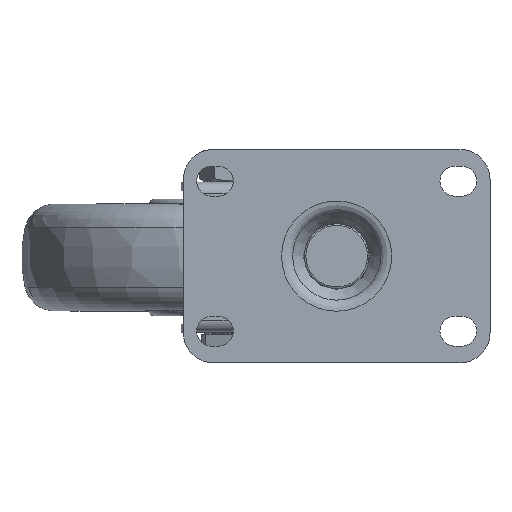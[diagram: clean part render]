
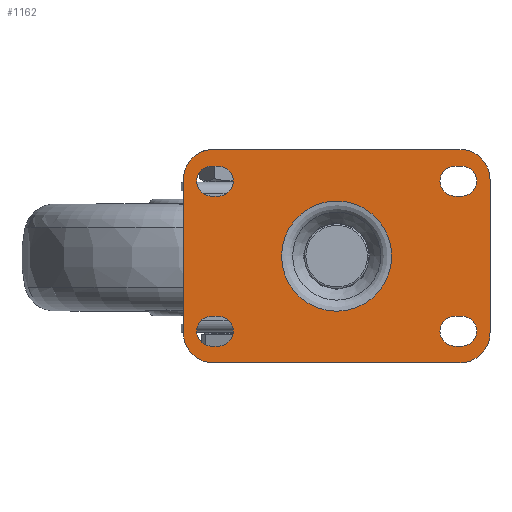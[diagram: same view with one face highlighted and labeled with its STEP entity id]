
A CAD part, top view. The second image highlights one B-rep face of the part: STEP entity #1162.
In plain terms, the highlighted planar face has unit normal (0, 0, 1).
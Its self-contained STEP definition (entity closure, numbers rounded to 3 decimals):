
#1162=ADVANCED_FACE('',(#2479,#2480,#2481,#2482,#2483,#2484),#2006,.F.);
#2006=PLANE('',#14996);
#2479=FACE_BOUND('',#2766,.T.);
#2480=FACE_BOUND('',#2767,.T.);
#2481=FACE_BOUND('',#2768,.T.);
#2482=FACE_BOUND('',#2769,.T.);
#2483=FACE_BOUND('',#2770,.T.);
#2484=FACE_BOUND('',#2771,.T.);
#2766=EDGE_LOOP('',(#6605));
#2767=EDGE_LOOP('',(#6606,#6607,#6608,#6609));
#2768=EDGE_LOOP('',(#6610,#6611,#6612,#6613));
#2769=EDGE_LOOP('',(#6614,#6615,#6616,#6617));
#2770=EDGE_LOOP('',(#6618,#6619,#6620,#6621));
#2771=EDGE_LOOP('',(#6622,#6623,#6624,#6625,#6626,#6627,#6628,#6629,#6630,
#6631));
#4642=LINE('',#20345,#5521);
#4643=LINE('',#20350,#5522);
#4644=LINE('',#20353,#5523);
#4645=LINE('',#20358,#5524);
#4646=LINE('',#20361,#5525);
#4647=LINE('',#20366,#5526);
#4648=LINE('',#20369,#5527);
#4649=LINE('',#20374,#5528);
#4650=LINE('',#20377,#5529);
#4651=LINE('',#20380,#5530);
#4652=LINE('',#20384,#5531);
#4653=LINE('',#20388,#5532);
#4654=LINE('',#20390,#5533);
#4655=LINE('',#20394,#5534);
#5521=VECTOR('',#16355,1.);
#5522=VECTOR('',#16358,1.);
#5523=VECTOR('',#16361,1.);
#5524=VECTOR('',#16364,1.);
#5525=VECTOR('',#16367,1.);
#5526=VECTOR('',#16370,1.);
#5527=VECTOR('',#16373,1.);
#5528=VECTOR('',#16376,1.);
#5529=VECTOR('',#16379,1.);
#5530=VECTOR('',#16380,1.);
#5531=VECTOR('',#16383,1.);
#5532=VECTOR('',#16386,1.);
#5533=VECTOR('',#16387,1.);
#5534=VECTOR('',#16390,1.);
#6605=ORIENTED_EDGE('',*,*,#12462,.T.);
#6606=ORIENTED_EDGE('',*,*,#12463,.F.);
#6607=ORIENTED_EDGE('',*,*,#12464,.F.);
#6608=ORIENTED_EDGE('',*,*,#12465,.F.);
#6609=ORIENTED_EDGE('',*,*,#12466,.F.);
#6610=ORIENTED_EDGE('',*,*,#12467,.F.);
#6611=ORIENTED_EDGE('',*,*,#12468,.F.);
#6612=ORIENTED_EDGE('',*,*,#12469,.F.);
#6613=ORIENTED_EDGE('',*,*,#12470,.F.);
#6614=ORIENTED_EDGE('',*,*,#12471,.F.);
#6615=ORIENTED_EDGE('',*,*,#12472,.F.);
#6616=ORIENTED_EDGE('',*,*,#12473,.F.);
#6617=ORIENTED_EDGE('',*,*,#12474,.F.);
#6618=ORIENTED_EDGE('',*,*,#12475,.F.);
#6619=ORIENTED_EDGE('',*,*,#12476,.F.);
#6620=ORIENTED_EDGE('',*,*,#12477,.F.);
#6621=ORIENTED_EDGE('',*,*,#12478,.F.);
#6622=ORIENTED_EDGE('',*,*,#12479,.T.);
#6623=ORIENTED_EDGE('',*,*,#12480,.T.);
#6624=ORIENTED_EDGE('',*,*,#12481,.T.);
#6625=ORIENTED_EDGE('',*,*,#12482,.T.);
#6626=ORIENTED_EDGE('',*,*,#12483,.T.);
#6627=ORIENTED_EDGE('',*,*,#12484,.T.);
#6628=ORIENTED_EDGE('',*,*,#12485,.T.);
#6629=ORIENTED_EDGE('',*,*,#12486,.T.);
#6630=ORIENTED_EDGE('',*,*,#12487,.T.);
#6631=ORIENTED_EDGE('',*,*,#12488,.T.);
#10971=VERTEX_POINT('',#20344);
#10972=VERTEX_POINT('',#20346);
#10973=VERTEX_POINT('',#20347);
#10974=VERTEX_POINT('',#20349);
#10975=VERTEX_POINT('',#20351);
#10976=VERTEX_POINT('',#20354);
#10977=VERTEX_POINT('',#20355);
#10978=VERTEX_POINT('',#20357);
#10979=VERTEX_POINT('',#20359);
#10980=VERTEX_POINT('',#20362);
#10981=VERTEX_POINT('',#20363);
#10982=VERTEX_POINT('',#20365);
#10983=VERTEX_POINT('',#20367);
#10984=VERTEX_POINT('',#20370);
#10985=VERTEX_POINT('',#20371);
#10986=VERTEX_POINT('',#20373);
#10987=VERTEX_POINT('',#20375);
#10988=VERTEX_POINT('',#20378);
#10989=VERTEX_POINT('',#20379);
#10990=VERTEX_POINT('',#20381);
#10991=VERTEX_POINT('',#20383);
#10992=VERTEX_POINT('',#20385);
#10993=VERTEX_POINT('',#20387);
#10994=VERTEX_POINT('',#20389);
#10995=VERTEX_POINT('',#20391);
#10996=VERTEX_POINT('',#20393);
#10997=VERTEX_POINT('',#20395);
#12462=EDGE_CURVE('',#10971,#10971,#14517,.T.);
#12463=EDGE_CURVE('',#10972,#10973,#4642,.T.);
#12464=EDGE_CURVE('',#10974,#10972,#14518,.T.);
#12465=EDGE_CURVE('',#10975,#10974,#4643,.T.);
#12466=EDGE_CURVE('',#10973,#10975,#14519,.T.);
#12467=EDGE_CURVE('',#10976,#10977,#4644,.T.);
#12468=EDGE_CURVE('',#10978,#10976,#14520,.T.);
#12469=EDGE_CURVE('',#10979,#10978,#4645,.T.);
#12470=EDGE_CURVE('',#10977,#10979,#14521,.T.);
#12471=EDGE_CURVE('',#10980,#10981,#4646,.T.);
#12472=EDGE_CURVE('',#10982,#10980,#14522,.T.);
#12473=EDGE_CURVE('',#10983,#10982,#4647,.T.);
#12474=EDGE_CURVE('',#10981,#10983,#14523,.T.);
#12475=EDGE_CURVE('',#10984,#10985,#4648,.T.);
#12476=EDGE_CURVE('',#10986,#10984,#14524,.T.);
#12477=EDGE_CURVE('',#10987,#10986,#4649,.T.);
#12478=EDGE_CURVE('',#10985,#10987,#14525,.T.);
#12479=EDGE_CURVE('',#10988,#10989,#4650,.T.);
#12480=EDGE_CURVE('',#10989,#10990,#4651,.T.);
#12481=EDGE_CURVE('',#10990,#10991,#14526,.T.);
#12482=EDGE_CURVE('',#10991,#10992,#4652,.T.);
#12483=EDGE_CURVE('',#10992,#10993,#14527,.T.);
#12484=EDGE_CURVE('',#10993,#10994,#4653,.T.);
#12485=EDGE_CURVE('',#10994,#10995,#4654,.T.);
#12486=EDGE_CURVE('',#10995,#10996,#14528,.T.);
#12487=EDGE_CURVE('',#10996,#10997,#4655,.T.);
#12488=EDGE_CURVE('',#10997,#10988,#14529,.T.);
#14517=CIRCLE('',#14983,16.522);
#14518=CIRCLE('',#14984,4.5);
#14519=CIRCLE('',#14985,4.5);
#14520=CIRCLE('',#14986,4.5);
#14521=CIRCLE('',#14987,4.5);
#14522=CIRCLE('',#14988,4.5);
#14523=CIRCLE('',#14989,4.5);
#14524=CIRCLE('',#14990,4.5);
#14525=CIRCLE('',#14991,4.5);
#14526=CIRCLE('',#14992,9.);
#14527=CIRCLE('',#14993,9.);
#14528=CIRCLE('',#14994,9.);
#14529=CIRCLE('',#14995,9.);
#14983=AXIS2_PLACEMENT_3D('',#20343,#16353,#16354);
#14984=AXIS2_PLACEMENT_3D('',#20348,#16356,#16357);
#14985=AXIS2_PLACEMENT_3D('',#20352,#16359,#16360);
#14986=AXIS2_PLACEMENT_3D('',#20356,#16362,#16363);
#14987=AXIS2_PLACEMENT_3D('',#20360,#16365,#16366);
#14988=AXIS2_PLACEMENT_3D('',#20364,#16368,#16369);
#14989=AXIS2_PLACEMENT_3D('',#20368,#16371,#16372);
#14990=AXIS2_PLACEMENT_3D('',#20372,#16374,#16375);
#14991=AXIS2_PLACEMENT_3D('',#20376,#16377,#16378);
#14992=AXIS2_PLACEMENT_3D('',#20382,#16381,#16382);
#14993=AXIS2_PLACEMENT_3D('',#20386,#16384,#16385);
#14994=AXIS2_PLACEMENT_3D('',#20392,#16388,#16389);
#14995=AXIS2_PLACEMENT_3D('',#20396,#16391,#16392);
#14996=AXIS2_PLACEMENT_3D('',#20397,#16393,#16394);
#16353=DIRECTION('',(0.,0.,-1.));
#16354=DIRECTION('',(-1.,0.,0.));
#16355=DIRECTION('',(1.,0.,0.));
#16356=DIRECTION('',(0.,0.,1.));
#16357=DIRECTION('',(1.,0.,0.));
#16358=DIRECTION('',(-1.,0.,0.));
#16359=DIRECTION('',(0.,0.,1.));
#16360=DIRECTION('',(1.,0.,0.));
#16361=DIRECTION('',(1.,0.,0.));
#16362=DIRECTION('',(0.,0.,1.));
#16363=DIRECTION('',(1.,0.,0.));
#16364=DIRECTION('',(-1.,0.,0.));
#16365=DIRECTION('',(0.,0.,1.));
#16366=DIRECTION('',(1.,0.,0.));
#16367=DIRECTION('',(1.,0.,0.));
#16368=DIRECTION('',(0.,0.,1.));
#16369=DIRECTION('',(1.,0.,0.));
#16370=DIRECTION('',(-1.,0.,0.));
#16371=DIRECTION('',(0.,0.,1.));
#16372=DIRECTION('',(1.,0.,0.));
#16373=DIRECTION('',(1.,0.,0.));
#16374=DIRECTION('',(0.,0.,1.));
#16375=DIRECTION('',(1.,0.,0.));
#16376=DIRECTION('',(-1.,0.,0.));
#16377=DIRECTION('',(0.,0.,1.));
#16378=DIRECTION('',(1.,0.,0.));
#16379=DIRECTION('',(-1.,0.,0.));
#16380=DIRECTION('',(-1.,0.,0.));
#16381=DIRECTION('',(0.,0.,1.));
#16382=DIRECTION('',(1.,0.,0.));
#16383=DIRECTION('',(0.,-1.,0.));
#16384=DIRECTION('',(0.,0.,1.));
#16385=DIRECTION('',(1.,0.,0.));
#16386=DIRECTION('',(1.,0.,0.));
#16387=DIRECTION('',(1.,0.,0.));
#16388=DIRECTION('',(0.,0.,1.));
#16389=DIRECTION('',(-1.,0.,0.));
#16390=DIRECTION('',(0.,1.,0.));
#16391=DIRECTION('',(0.,0.,1.));
#16392=DIRECTION('',(-1.,0.,0.));
#16393=DIRECTION('',(0.,0.,-1.));
#16394=DIRECTION('',(1.,0.,0.));
#20343=CARTESIAN_POINT('',(0.,0.,0.));
#20344=CARTESIAN_POINT('',(-16.522,0.,0.));
#20345=CARTESIAN_POINT('',(-37.5,18.,0.));
#20346=CARTESIAN_POINT('',(-37.5,18.,0.));
#20347=CARTESIAN_POINT('',(-35.5,18.,0.));
#20348=CARTESIAN_POINT('',(-37.5,22.5,0.));
#20349=CARTESIAN_POINT('',(-37.5,27.,0.));
#20350=CARTESIAN_POINT('',(-37.5,27.,0.));
#20351=CARTESIAN_POINT('',(-35.5,27.,0.));
#20352=CARTESIAN_POINT('',(-35.5,22.5,0.));
#20353=CARTESIAN_POINT('',(-37.5,-27.,0.));
#20354=CARTESIAN_POINT('',(-37.5,-27.,0.));
#20355=CARTESIAN_POINT('',(-35.5,-27.,0.));
#20356=CARTESIAN_POINT('',(-37.5,-22.5,0.));
#20357=CARTESIAN_POINT('',(-37.5,-18.,0.));
#20358=CARTESIAN_POINT('',(-37.5,-18.,0.));
#20359=CARTESIAN_POINT('',(-35.5,-18.,0.));
#20360=CARTESIAN_POINT('',(-35.5,-22.5,0.));
#20361=CARTESIAN_POINT('',(35.5,-27.,0.));
#20362=CARTESIAN_POINT('',(35.5,-27.,0.));
#20363=CARTESIAN_POINT('',(37.5,-27.,0.));
#20364=CARTESIAN_POINT('',(35.5,-22.5,0.));
#20365=CARTESIAN_POINT('',(35.5,-18.,0.));
#20366=CARTESIAN_POINT('',(35.5,-18.,0.));
#20367=CARTESIAN_POINT('',(37.5,-18.,0.));
#20368=CARTESIAN_POINT('',(37.5,-22.5,0.));
#20369=CARTESIAN_POINT('',(35.5,18.,0.));
#20370=CARTESIAN_POINT('',(35.5,18.,0.));
#20371=CARTESIAN_POINT('',(37.5,18.,0.));
#20372=CARTESIAN_POINT('',(35.5,22.5,0.));
#20373=CARTESIAN_POINT('',(35.5,27.,0.));
#20374=CARTESIAN_POINT('',(35.5,27.,0.));
#20375=CARTESIAN_POINT('',(37.5,27.,0.));
#20376=CARTESIAN_POINT('',(37.5,22.5,0.));
#20377=CARTESIAN_POINT('',(-37.,32.,0.));
#20378=CARTESIAN_POINT('',(37.,32.,0.));
#20379=CARTESIAN_POINT('',(0.,32.,0.));
#20380=CARTESIAN_POINT('',(-37.,32.,0.));
#20381=CARTESIAN_POINT('',(-37.,32.,0.));
#20382=CARTESIAN_POINT('',(-37.,23.,0.));
#20383=CARTESIAN_POINT('',(-46.,23.,0.));
#20384=CARTESIAN_POINT('',(-46.,23.,0.));
#20385=CARTESIAN_POINT('',(-46.,-23.,0.));
#20386=CARTESIAN_POINT('',(-37.,-23.,0.));
#20387=CARTESIAN_POINT('',(-37.,-32.,0.));
#20388=CARTESIAN_POINT('',(-37.,-32.,0.));
#20389=CARTESIAN_POINT('',(0.,-32.,0.));
#20390=CARTESIAN_POINT('',(-37.,-32.,0.));
#20391=CARTESIAN_POINT('',(37.,-32.,0.));
#20392=CARTESIAN_POINT('',(37.,-23.,0.));
#20393=CARTESIAN_POINT('',(46.,-23.,0.));
#20394=CARTESIAN_POINT('',(46.,23.,0.));
#20395=CARTESIAN_POINT('',(46.,23.,0.));
#20396=CARTESIAN_POINT('',(37.,23.,0.));
#20397=CARTESIAN_POINT('',(-32.,0.,0.));
